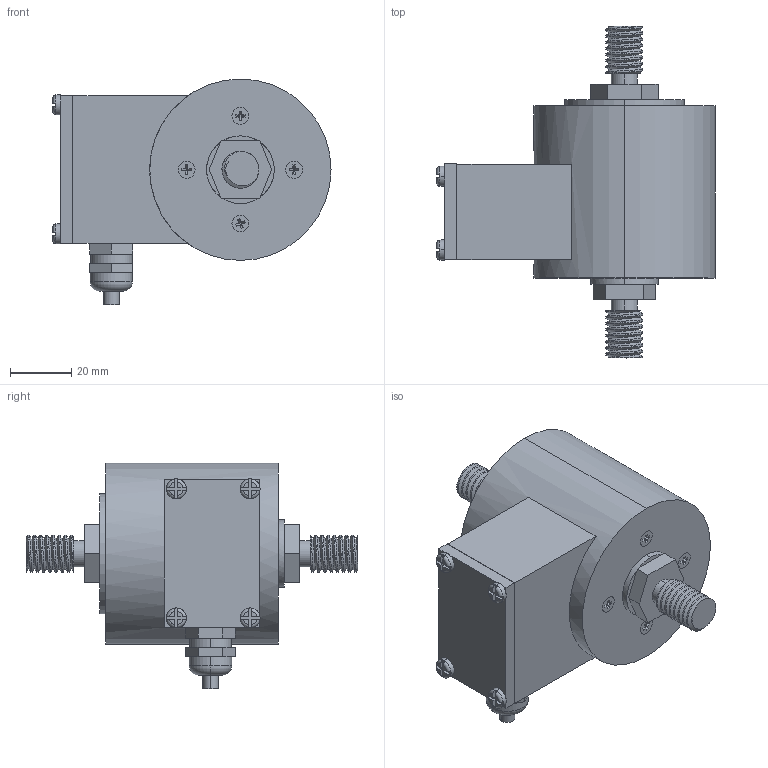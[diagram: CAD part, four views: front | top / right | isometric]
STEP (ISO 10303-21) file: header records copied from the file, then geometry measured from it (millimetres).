
FILE_DESCRIPTION (( 'STEP AP214' ), '1' );
FILE_NAME ('KT1101_K_2KN.STEP', '2014-04-23T11:44:04', ( '' ), ( '' ), 'SwSTEP 2.0', 'SolidWorks 2012', '' );
FILE_SCHEMA (( 'AUTOMOTIVE_DESIGN' ));
Length unit declared in the file: metre
Products named in the file (1): KT1101_K_2KN
Bounding box: 90.5 x 108 x 73.5 mm (x, y, z)
Volume: 213603 mm3; surface area: 25879.9 mm2
Topology: 1 solids, 1 shells, 259 faces, 622 edges, 388 vertices
Faces by surface type: plane 175, cylinder 62, torus 18, bspline 4
Entity records: 12689 total; most frequent: CARTESIAN_POINT 5714, ORIENTED_EDGE 1244, DIRECTION 1170, EDGE_CURVE 622, AXIS2_PLACEMENT_3D 400, VERTEX_POINT 388, VECTOR 370, LINE 370
